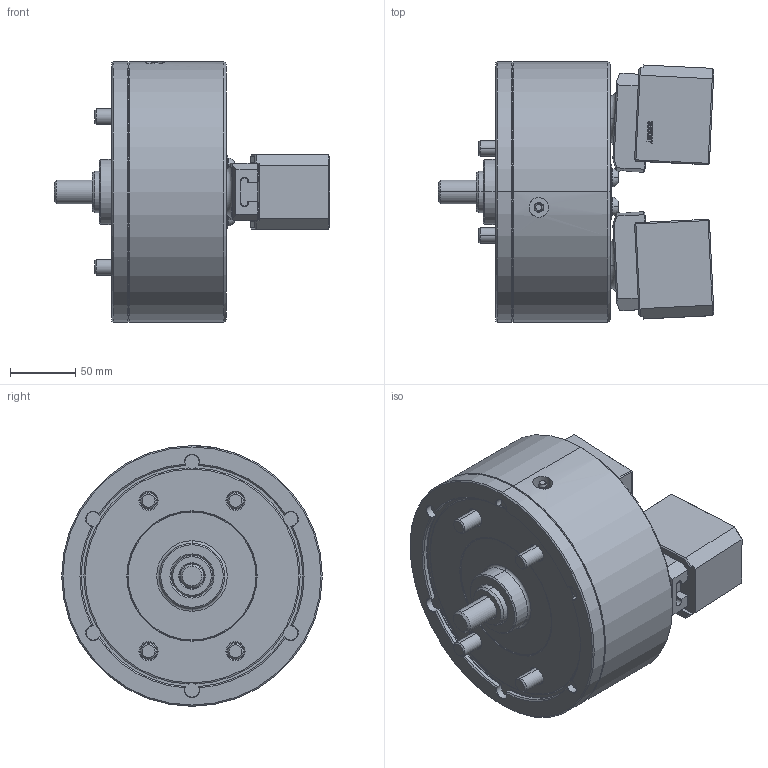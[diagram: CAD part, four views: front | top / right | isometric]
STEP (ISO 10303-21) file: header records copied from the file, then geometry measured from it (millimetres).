
FILE_DESCRIPTION (( 'STEP AP214' ), '1' );
FILE_NAME ('PWT08_UC_ID.STEP', '2019-10-21T05:10:27', ( '' ), ( '' ), 'SwSTEP 2.0', 'SolidWorks 2017', '' );
FILE_SCHEMA (( 'AUTOMOTIVE_DESIGN' ));
Length unit declared in the file: millimetre
Products named in the file (5): 結合_ID; 0030112020; 61P332344; 61P420336; PWT08_UC_ID
Assembly tree (9 placements, depth 2):
  PWT08_UC_ID
    61P420336  x2
    61P332344  x2
    0030112020  x4
    結合_ID
Bounding box: 211.7 x 200 x 200 mm (x, y, z)
Volume: 3194099.8 mm3; surface area: 273268.5 mm2
Topology: 9 solids, 10 shells, 1715 faces, 4307 edges, 2730 vertices
Faces by surface type: plane 819, bspline 356, cone 268, cylinder 218, torus 54
Entity records: 53003 total; most frequent: CARTESIAN_POINT 20968, ORIENTED_EDGE 7082, DIRECTION 5674, EDGE_CURVE 3541, VERTEX_POINT 2255, LINE 1938, VECTOR 1938, AXIS2_PLACEMENT_3D 1868
